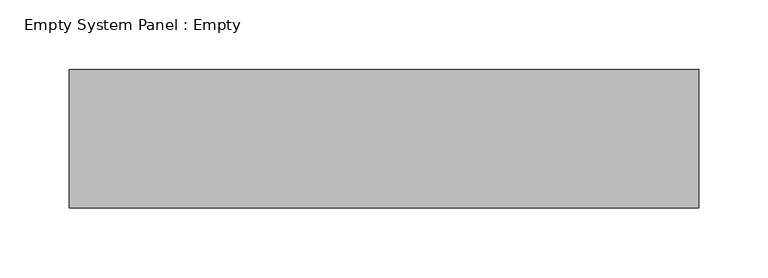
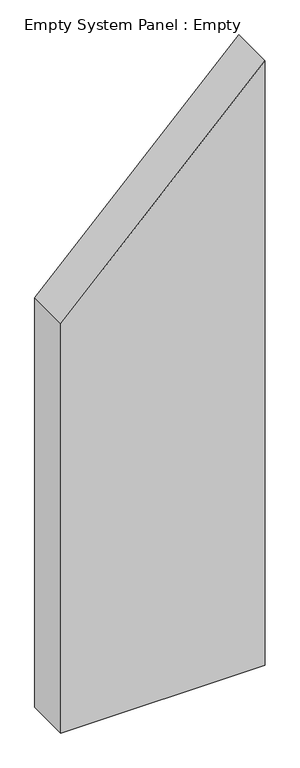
"""IFC4 building model written with IfcOpenShell, lengths in millimetres: plate geometry, Empty System Panel : Empty."""

from ifc_helpers import new_model, si_unit, frame, origin, place, context, project, spatial, polyline, outline, extrude, source, transform, mapped, element, save


def empty_system_panel_empty_6623d2ed(model_context):
    return source(origin(), model_context, "Body", "SweptSolid", [
        extrude(outline(polyline([(0.0, -226.4404253), (0.0, 226.4404253), (1418.0751494, 226.4404253), (960.1277301, -226.4404253), (0.0, -226.4404253)])), frame((0.0, -50.0, 0.0), z_axis=(0.0, 1.0, 0.0), x_axis=(0.0, 0.0, 1.0)), (0.0, 0.0, 1.0), 100.0),
    ])


if __name__ == "__main__":
    model = new_model("IFC4")
    model_context = context("Model", 3, world=origin())
    ifc_project = project(units=[si_unit("LENGTHUNIT", "METRE", prefix="MILLI")], contexts=[model_context])
    site = spatial("IfcSite", under=ifc_project)
    building = spatial("IfcBuilding", under=site)
    placement = place(None, origin())
    empty_system_panel_empty_shape = empty_system_panel_empty_6623d2ed(model_context)
    element("IfcPlate", 1, ObjectType="Empty System Panel : Empty", at=placement, inside=building, context=model_context, shape_type="MappedRepresentation", body=[
        mapped(empty_system_panel_empty_shape, transform((0.0, 0.0, 0.0), x_axis=(1.0, 0.0, 0.0), y_axis=(0.0, 1.0, 0.0), z_axis=(0.0, 0.0, 1.0))),
    ])
    save(model, "model.ifc")
